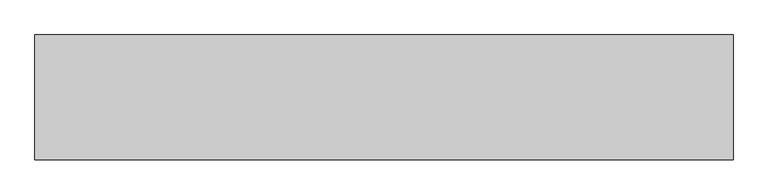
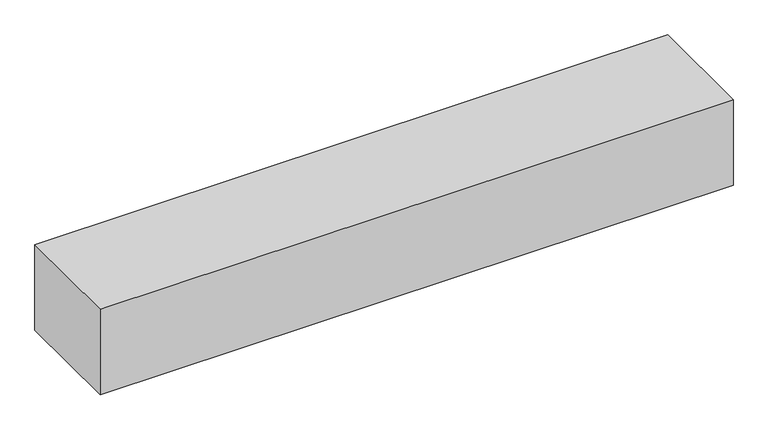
"""IFC4 building model written with IfcOpenShell, lengths in millimetres: geographic element geometry, r 低木密植 : 低木密植."""

import ifcopenshell
import ifcopenshell.guid

model = None  # the IFC model being written
_history = None  # IfcOwnerHistory: only IFC2X3 demands one
_inside = {}  # id of a spatial element -> (the spatial element, [elements in it])
_under = {}  # id of a project, library or spatial element -> (it, [spatial elements below it])
_declared = {}  # id of a project -> (the project, [libraries it declares])
_typed = {}  # id of a type object -> (the type object, [elements of that type])
_made_of = {}  # id of a material, layer set ... -> (it, [elements and type objects made of it])


def new_model(schema):
    """Start an empty IFC model of exactly this schema.

    Asked for "IFC4X3", IfcOpenShell would pick the latest addendum, in which some entities
    have other attributes; the version numbers below select the first issue.
    IFC2X3 requires an IfcOwnerHistory on every rooted entity: one is made here for all.
    """
    global model, _history
    if schema == "IFC4X3":
        model = ifcopenshell.file(schema_version=(4, 3, 0, 0))
    else:
        model = ifcopenshell.file(schema=schema)
    _inside.clear()
    _under.clear()
    _declared.clear()
    _typed.clear()
    _made_of.clear()
    _history = None
    if model.schema == "IFC2X3":
        org = make("IfcOrganization", Name="unknown")
        user = make(
            "IfcPersonAndOrganization",
            ThePerson=make("IfcPerson", FamilyName="unknown"),
            TheOrganization=org,
        )
        app = make(
            "IfcApplication",
            ApplicationDeveloper=org,
            Version="unknown",
            ApplicationFullName="unknown",
            ApplicationIdentifier="unknown",
        )
        _history = make(
            "IfcOwnerHistory",
            OwningUser=user,
            OwningApplication=app,
            ChangeAction="ADDED",
            CreationDate=0,
        )
    return model


def make(cls, **values):
    """One entity of the class cls with the attributes given. An attribute that is None is left unset."""
    return model.create_entity(
        cls, **{name: value for name, value in values.items() if value is not None}
    )


def rooted(cls, **values):
    """An entity with a GlobalId (a new one), such as an element, a storey or a relation."""
    return make(cls, GlobalId=ifcopenshell.guid.new(), OwnerHistory=_history, **values)


def si_unit(unit_type, name, prefix=None):
    """IfcSIUnit, for example si_unit("LENGTHUNIT", "METRE", prefix="MILLI")."""
    return make("IfcSIUnit", UnitType=unit_type, Prefix=prefix, Name=name)


def assignment(units):
    """IfcUnitAssignment: the units of a project."""
    return None if units is None else make("IfcUnitAssignment", Units=units)


def point(xyz):
    """IfcCartesianPoint."""
    return None if xyz is None else make("IfcCartesianPoint", Coordinates=xyz)


def direction(xyz):
    """IfcDirection."""
    return None if xyz is None else make("IfcDirection", DirectionRatios=xyz)


def frame(location, z_axis=None, x_axis=None):
    """IfcAxis2Placement3D, a coordinate frame: its origin and axes. An axis left out is left unset."""
    return make(
        "IfcAxis2Placement3D",
        Location=point(location),
        Axis=direction(z_axis),
        RefDirection=direction(x_axis),
    )


def origin():
    """The frame at (0, 0, 0) with its axes left unset."""
    return frame((0.0, 0.0, 0.0))


def origin_with_axes():
    """The frame at (0, 0, 0) with the z axis (0, 0, 1) and the x axis (1, 0, 0) written out."""
    return frame((0.0, 0.0, 0.0), z_axis=(0.0, 0.0, 1.0), x_axis=(1.0, 0.0, 0.0))


def place(relative_to, where):
    """IfcLocalPlacement: puts the frame where relative to a parent placement (None: the world)."""
    return make(
        "IfcLocalPlacement", PlacementRelTo=relative_to, RelativePlacement=where
    )


def context(
    kind, dimensions, precision=None, world=None, true_north=None, identifier=None
):
    """IfcGeometricRepresentationContext, for example the 3D "Model" context."""
    return make(
        "IfcGeometricRepresentationContext",
        ContextIdentifier=identifier,
        ContextType=kind,
        CoordinateSpaceDimension=dimensions,
        Precision=precision,
        WorldCoordinateSystem=world,
        TrueNorth=true_north,
    )


def project(units=None, contexts=None):
    """IfcProject with its units and contexts."""
    return rooted(
        "IfcProject",
        Name="project",
        RepresentationContexts=contexts,
        UnitsInContext=assignment(units),
    )


def spatial(cls, under=None, at=None, **own):
    """A site, building, storey or space (cls), placed at a placement, below another one or the project."""
    s = rooted(cls, ObjectPlacement=at, **own)
    if under is not None:
        _under.setdefault(under.id(), (under, []))[1].append(s)
    return s


def polyline(points):
    """IfcPolyline through the points."""
    return make("IfcPolyline", Points=[point(p) for p in points])


def outline(outer, holes=None, kind="AREA"):
    """IfcArbitraryClosedProfileDef: a profile drawn as a closed curve; with holes, ...WithVoids."""
    if holes is None:
        return make("IfcArbitraryClosedProfileDef", ProfileType=kind, OuterCurve=outer)
    return make(
        "IfcArbitraryProfileDefWithVoids",
        ProfileType=kind,
        OuterCurve=outer,
        InnerCurves=holes,
    )


def extrude(swept, where, along, depth):
    """IfcExtrudedAreaSolid: the profile swept, set in the frame where, extruded along a direction by depth."""
    return make(
        "IfcExtrudedAreaSolid",
        SweptArea=swept,
        Position=where,
        ExtrudedDirection=direction(along),
        Depth=depth,
    )


def shape(context_of_items, identifier, shape_type, items):
    """IfcShapeRepresentation: the items that make up one representation, for example the "Body"."""
    return make(
        "IfcShapeRepresentation",
        ContextOfItems=context_of_items,
        RepresentationIdentifier=identifier,
        RepresentationType=shape_type,
        Items=items,
    )


def source(mapping_origin, context_of_items, identifier, shape_type, items):
    """IfcRepresentationMap: a shape defined once, which mapped items show again and again."""
    return make(
        "IfcRepresentationMap",
        MappingOrigin=mapping_origin,
        MappedRepresentation=shape(context_of_items, identifier, shape_type, items),
    )


def transform(
    local_origin,
    x_axis=None,
    y_axis=None,
    z_axis=None,
    scale=None,
    scale2=None,
    scale3=None,
    uniform=True,
):
    """IfcCartesianTransformationOperator3D, or its non-uniform kind. x_axis, y_axis, z_axis: its Axis1, 2, 3."""
    if uniform:
        return make(
            "IfcCartesianTransformationOperator3D",
            Axis1=direction(x_axis),
            Axis2=direction(y_axis),
            LocalOrigin=point(local_origin),
            Scale=scale,
            Axis3=direction(z_axis),
        )
    return make(
        "IfcCartesianTransformationOperator3DnonUniform",
        Axis1=direction(x_axis),
        Axis2=direction(y_axis),
        LocalOrigin=point(local_origin),
        Scale=scale,
        Axis3=direction(z_axis),
        Scale2=scale2,
        Scale3=scale3,
    )


def mapped(mapping_source, mapping_target):
    """IfcMappedItem: shows the shape of a source again, moved by a transform."""
    return make(
        "IfcMappedItem", MappingSource=mapping_source, MappingTarget=mapping_target
    )


def made_of(thing, what):
    """Note that an element or type object is made of a material, layer set ...; save() writes the relation."""
    if what is not None:
        _made_of.setdefault(what.id(), (what, []))[1].append(thing)
    return thing


def element(
    cls,
    number,
    at=None,
    inside=None,
    cuts=None,
    type_object=None,
    material=None,
    context=None,
    identifier="Body",
    shape_type=None,
    held_by="IfcProductDefinitionShape",
    body=None,
    shapes=None,
    **own,
):
    """One element of the class cls, such as IfcWall. Its Tag is "e" and its number.

    at: its placement. inside: the storey or other place that contains it. cuts: it is an
    opening in that element (IfcRelVoidsElement). A single representation is given by context,
    identifier, shape_type and body (its items); several are given by shapes. held_by: the class
    of the entity that holds the representations. save() writes the other relations.
    """
    e = rooted(cls, Tag="e%d" % number, ObjectPlacement=at, **own)
    if body is not None:
        shapes = [shape(context, identifier, shape_type, body)]
    if shapes is not None:
        e.Representation = make(held_by, Representations=shapes)
    if inside is not None:
        _inside.setdefault(inside.id(), (inside, []))[1].append(e)
    if cuts is not None:
        rooted(
            "IfcRelVoidsElement", RelatingBuildingElement=cuts, RelatedOpeningElement=e
        )
    if type_object is not None:
        _typed.setdefault(type_object.id(), (type_object, []))[1].append(e)
    return made_of(e, material)


def aggregate(whole, parts):
    """IfcRelAggregates: a whole, such as a stair, and the parts it consists of."""
    return rooted("IfcRelAggregates", RelatingObject=whole, RelatedObjects=parts)


def save(model, path):
    """Write the relations noted so far, then the file.

    IfcRelAggregates (storeys below a building ...), IfcRelContainedInSpatialStructure (elements
    in a storey), IfcRelDefinesByType, IfcRelAssociatesMaterial and IfcRelDeclares: one each for
    every whole, place, type object, material and project.
    """
    for whole, parts in _under.values():
        aggregate(whole, parts)
    for where, things in _inside.values():
        rooted(
            "IfcRelContainedInSpatialStructure",
            RelatedElements=things,
            RelatingStructure=where,
        )
    for kind, things in _typed.values():
        rooted("IfcRelDefinesByType", RelatedObjects=things, RelatingType=kind)
    for what, things in _made_of.values():
        rooted("IfcRelAssociatesMaterial", RelatedObjects=things, RelatingMaterial=what)
    for by, libraries in _declared.values():
        rooted("IfcRelDeclares", RelatingContext=by, RelatedDefinitions=libraries)
    model.write(path)


def geographic_element_e2d250f7(model_context):
    return source(origin(), model_context, "Body", "SweptSolid", [
        extrude(outline(polyline([(0.0, 0.0), (0.0, 500.0), (2800.0, 500.0), (2800.0, 0.0), (0.0, 0.0)])), origin_with_axes(), (0.0, 0.0, 1.0), 400.0),
    ])


if __name__ == "__main__":
    model = new_model("IFC4")
    model_context = context("Model", 3, world=origin())
    ifc_project = project(units=[si_unit("LENGTHUNIT", "METRE", prefix="MILLI")], contexts=[model_context])
    site = spatial("IfcSite", under=ifc_project)
    building = spatial("IfcBuilding", under=site)
    placement = place(None, origin())
    geographic_element_shape = geographic_element_e2d250f7(model_context)
    element("IfcGeographicElement", 1, ObjectType="r 低木密植 : 低木密植", at=placement, inside=building, context=model_context, shape_type="MappedRepresentation", body=[
        mapped(geographic_element_shape, transform((0.0, 0.0, 0.0), x_axis=(1.0, 0.0, 0.0), y_axis=(0.0, 1.0, 0.0), z_axis=(0.0, 0.0, 1.0))),
    ])
    save(model, "model.ifc")
